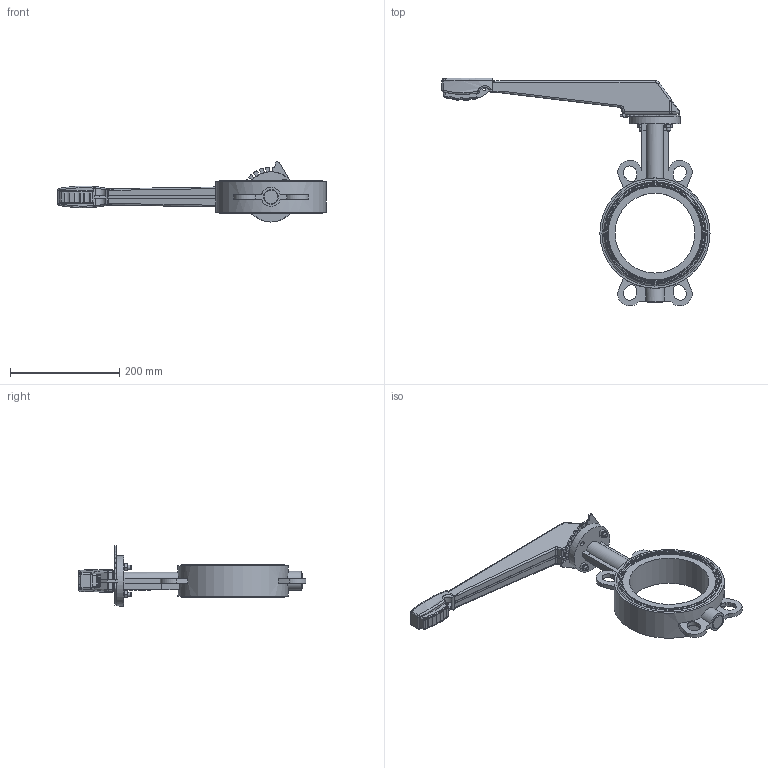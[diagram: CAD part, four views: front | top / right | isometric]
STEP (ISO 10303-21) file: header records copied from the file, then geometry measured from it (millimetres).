
FILE_DESCRIPTION((''),'2;1');
FILE_NAME('K:\Inventor\1 Artikel\10) Absperrklappen\10a) manuell\Witzel\830-GGG, Euronomic BA\830-GGG, DN150\830-GGG, DN150, 3D\830-GGG, DN150, PN6-16, HH, 3D.stp','2019-08-14T10:09:29',('claudia'),(''),'Autodesk Inventor 2013','Autodesk Inventor 2013','');
FILE_SCHEMA(('AUTOMOTIVE_DESIGN { 1 0 10303 214 1 1 1 1 }'));
Length unit declared in the file: millimetre
Products named in the file (1): Bauteil6
Bounding box: 491.25 x 417.42 x 110 mm (x, y, z)
Volume: 1740047.2 mm3; surface area: 213485.3 mm2
Topology: 1 solids, 4 shells, 1284 faces, 3459 edges, 2260 vertices
Faces by surface type: plane 560, bspline 458, cylinder 165, cone 48, torus 39, sphere 14
Full cylindrical faces by diameter (mm): 5 x1, 7.233 x2, 8 x4, 9 x4, 12 x2, 15.8 x2, 25 x1, 27 x1, 42 x1, 92 x1, 146.3 x1, 194 x2, 202 x1
Entity records: 48039 total; most frequent: CARTESIAN_POINT 18790, ORIENTED_EDGE 6744, DIRECTION 4532, EDGE_CURVE 3372, VERTEX_POINT 2240, VECTOR 1820, LINE 1820, EDGE_LOOP 1444
